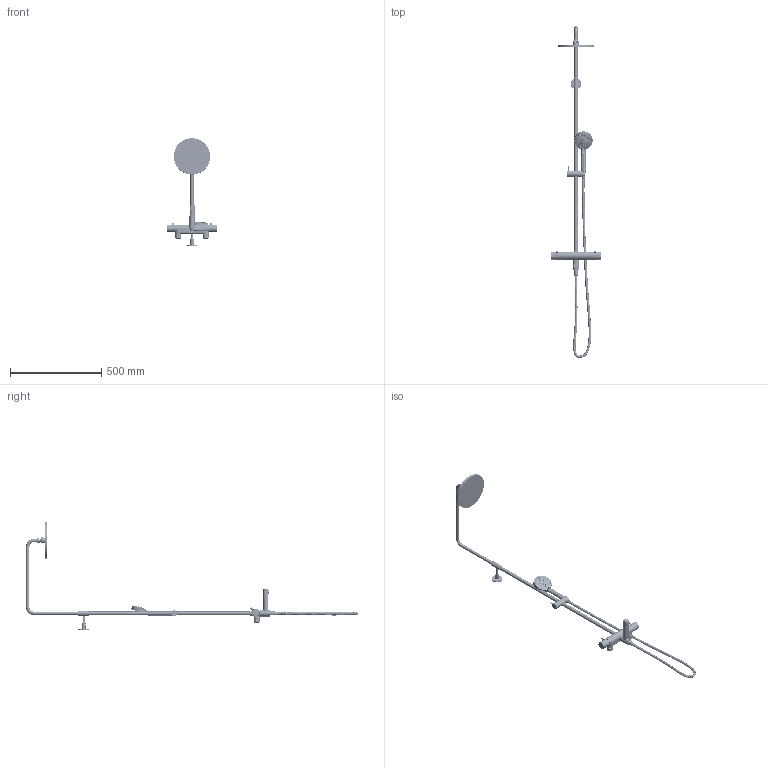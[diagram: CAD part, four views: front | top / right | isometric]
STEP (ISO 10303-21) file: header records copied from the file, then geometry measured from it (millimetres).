
FILE_DESCRIPTION((''),'2;1');
FILE_NAME('57817--_SW0001','2026-10-01T13:13:47',('simi1'),(''),'CREO PARAMETRIC BY PTC INC, 2022244','CREO PARAMETRIC BY PTC INC, 2022244','');
FILE_SCHEMA(('CONFIG_CONTROL_DESIGN'));
Products named in the file (1): 57817--_SW0001
Bounding box: 276.55 x 1820.81 x 590 mm (x, y, z)
Surface area: 493208.1 mm2 (no closed solid volume)
Topology: 0 solids, 410 shells, 1133 faces, 3643 edges, 2800 vertices
Faces by surface type: plane 337, cylinder 282, bspline 277, cone 123, torus 88, sphere 20, revolution 3, extrusion 3
Entity records: 318489 total; most frequent: CARTESIAN_POINT 290611, DIRECTION 5230, ORIENTED_EDGE 5016, EDGE_CURVE 3627, VERTEX_POINT 2800, AXIS2_PLACEMENT_3D 2159, B_SPLINE_CURVE_WITH_KNOTS 1418, CIRCLE 1309
